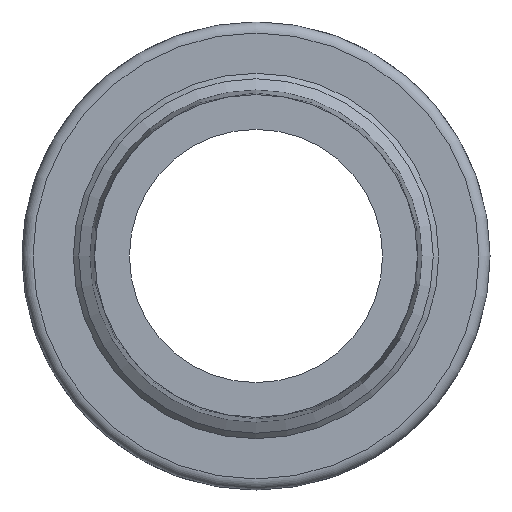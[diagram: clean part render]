
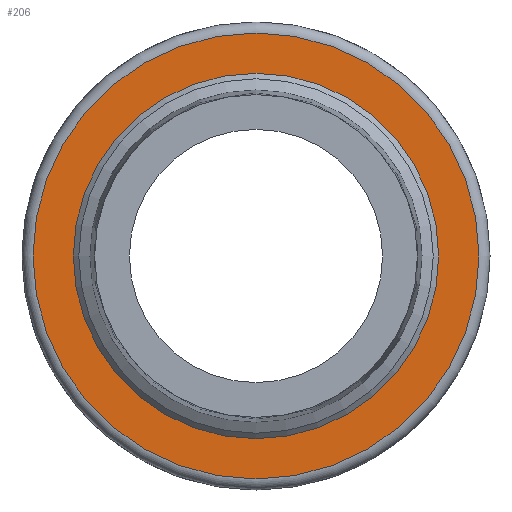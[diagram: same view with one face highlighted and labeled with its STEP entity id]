
A CAD part, left-side view. The second image highlights one B-rep face of the part: STEP entity #206.
In plain terms, the highlighted planar face has unit normal (-1, 0, 0).
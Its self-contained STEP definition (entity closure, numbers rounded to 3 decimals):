
#206 = ADVANCED_FACE( '', ( #432, #433 ), #434, .T. );
#432 = FACE_BOUND( '', #663, .T. );
#433 = FACE_OUTER_BOUND( '', #664, .T. );
#434 = PLANE( '', #665 );
#663 = EDGE_LOOP( '', ( #1179 ) );
#664 = EDGE_LOOP( '', ( #1180 ) );
#665 = AXIS2_PLACEMENT_3D( '', #1181, #1182, #1183 );
#1179 = ORIENTED_EDGE( '', *, *, #1446, .T. );
#1180 = ORIENTED_EDGE( '', *, *, #1316, .F. );
#1181 = CARTESIAN_POINT( '', ( 30., 40.5, 0. ) );
#1182 = DIRECTION( '', ( -1., 0., 0. ) );
#1183 = DIRECTION( '', ( 0., 0., 1. ) );
#1316 = EDGE_CURVE( '', #1566, #1566, #1567, .T. );
#1446 = EDGE_CURVE( '', #1757, #1757, #1758, .T. );
#1566 = VERTEX_POINT( '', #1974 );
#1567 = CIRCLE( '', #1975, 40.5 );
#1757 = VERTEX_POINT( '', #2574 );
#1758 = CIRCLE( '', #2575, 33.184 );
#1974 = CARTESIAN_POINT( '', ( 30., 0., -40.5 ) );
#1975 = AXIS2_PLACEMENT_3D( '', #2764, #2765, #2766 );
#2574 = CARTESIAN_POINT( '', ( 30., 0., -33.184 ) );
#2575 = AXIS2_PLACEMENT_3D( '', #2897, #2898, #2899 );
#2764 = CARTESIAN_POINT( '', ( 30., 0., 0. ) );
#2765 = DIRECTION( '', ( 1., 0., 0. ) );
#2766 = DIRECTION( '', ( 0., 0., -1. ) );
#2897 = CARTESIAN_POINT( '', ( 30., 0., 0. ) );
#2898 = DIRECTION( '', ( 1., 0., 0. ) );
#2899 = DIRECTION( '', ( 0., 0., -1. ) );
